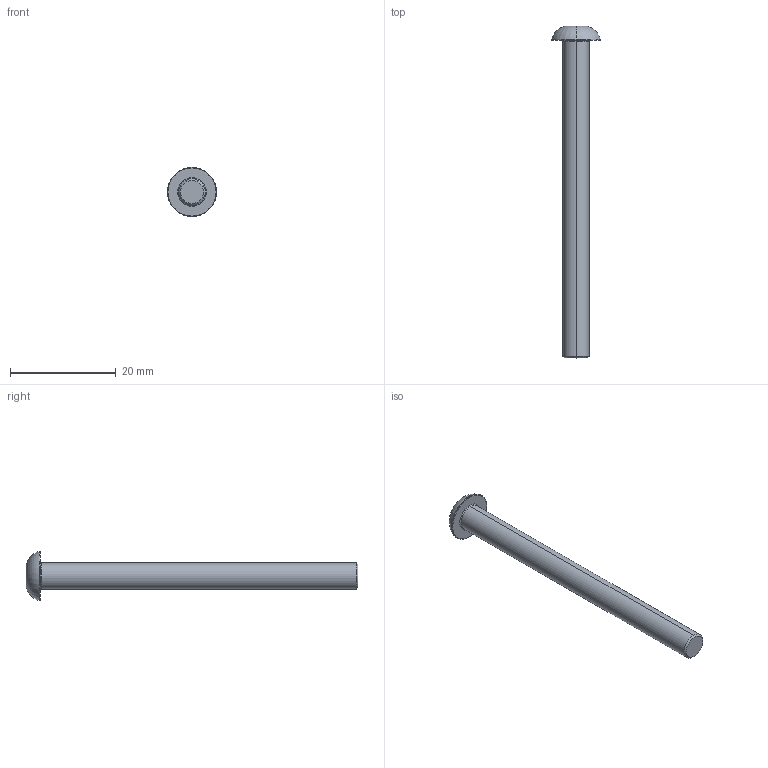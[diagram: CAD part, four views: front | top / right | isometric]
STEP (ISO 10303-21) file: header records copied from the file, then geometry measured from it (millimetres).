
FILE_DESCRIPTION (( 'STEP AP203' ), '1' );
FILE_NAME ('LGDD-TD-M5x60.STEP', '2026-08-14T01:30:55', ( '' ), ( '' ), 'SwSTEP 2.0', 'SolidWorks 2020', '' );
FILE_SCHEMA (( 'CONFIG_CONTROL_DESIGN' ));
Length unit declared in the file: millimetre
Products named in the file (1): LGDD-TD-M5x60
Bounding box: 9.3 x 62.7 x 9.3 mm (x, y, z)
Volume: 1291.9 mm3; surface area: 1130.9 mm2
Topology: 1 solids, 1 shells, 31 faces, 59 edges, 32 vertices
Faces by surface type: plane 10, cone 9, torus 8, cylinder 4
Entity records: 864 total; most frequent: CARTESIAN_POINT 154, DIRECTION 149, ORIENTED_EDGE 118, AXIS2_PLACEMENT_3D 65, EDGE_CURVE 59, EDGE_LOOP 33, CIRCLE 33, VERTEX_POINT 32
